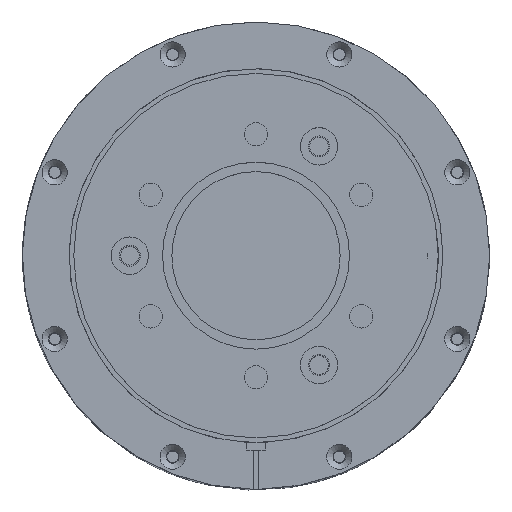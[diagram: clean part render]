
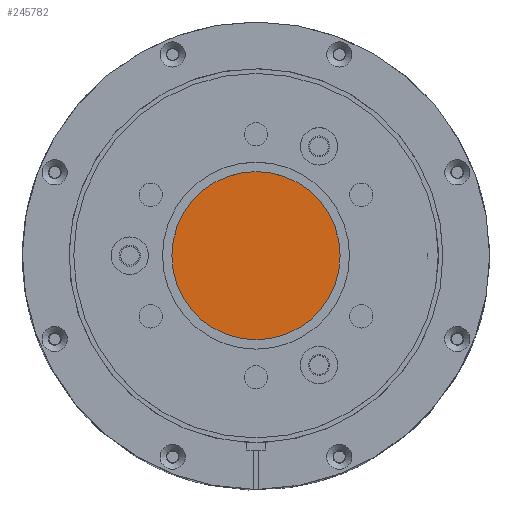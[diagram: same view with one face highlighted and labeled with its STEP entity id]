
A CAD part, top view. The second image highlights one B-rep face of the part: STEP entity #245782.
In plain terms, the highlighted planar face has unit normal (0, 0, 1).
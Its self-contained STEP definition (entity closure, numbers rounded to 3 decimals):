
#245361 = CYLINDRICAL_SURFACE('',#245362,18.);
#245362 = AXIS2_PLACEMENT_3D('',#245363,#245364,#245365);
#245363 = CARTESIAN_POINT('',(0.,0.,94.));
#245364 = DIRECTION('',(0.,0.,1.));
#245365 = DIRECTION('',(1.,0.,-0.));
#245717 = VERTEX_POINT('',#245718);
#245718 = CARTESIAN_POINT('',(18.,0.,94.));
#245739 = EDGE_CURVE('',#245717,#245717,#245740,.T.);
#245740 = SURFACE_CURVE('',#245741,(#245746,#245753),.PCURVE_S1.);
#245741 = CIRCLE('',#245742,18.);
#245742 = AXIS2_PLACEMENT_3D('',#245743,#245744,#245745);
#245743 = CARTESIAN_POINT('',(0.,0.,94.));
#245744 = DIRECTION('',(0.,0.,1.));
#245745 = DIRECTION('',(1.,0.,-0.));
#245746 = PCURVE('',#245361,#245747);
#245747 = DEFINITIONAL_REPRESENTATION('',(#245748),#245752);
#245748 = LINE('',#245749,#245750);
#245749 = CARTESIAN_POINT('',(0.,0.));
#245750 = VECTOR('',#245751,1.);
#245751 = DIRECTION('',(1.,0.));
#245752 = ( GEOMETRIC_REPRESENTATION_CONTEXT(2) 
PARAMETRIC_REPRESENTATION_CONTEXT() REPRESENTATION_CONTEXT('2D SPACE',''
  ) );
#245753 = PCURVE('',#245754,#245759);
#245754 = PLANE('',#245755);
#245755 = AXIS2_PLACEMENT_3D('',#245756,#245757,#245758);
#245756 = CARTESIAN_POINT('',(0.,0.,94.));
#245757 = DIRECTION('',(0.,0.,1.));
#245758 = DIRECTION('',(1.,0.,-0.));
#245759 = DEFINITIONAL_REPRESENTATION('',(#245760),#245764);
#245760 = CIRCLE('',#245761,18.);
#245761 = AXIS2_PLACEMENT_2D('',#245762,#245763);
#245762 = CARTESIAN_POINT('',(0.,0.));
#245763 = DIRECTION('',(1.,0.));
#245764 = ( GEOMETRIC_REPRESENTATION_CONTEXT(2) 
PARAMETRIC_REPRESENTATION_CONTEXT() REPRESENTATION_CONTEXT('2D SPACE',''
  ) );
#245782 = ADVANCED_FACE('',(#245783),#245754,.T.);
#245783 = FACE_BOUND('',#245784,.F.);
#245784 = EDGE_LOOP('',(#245785));
#245785 = ORIENTED_EDGE('',*,*,#245739,.F.);
